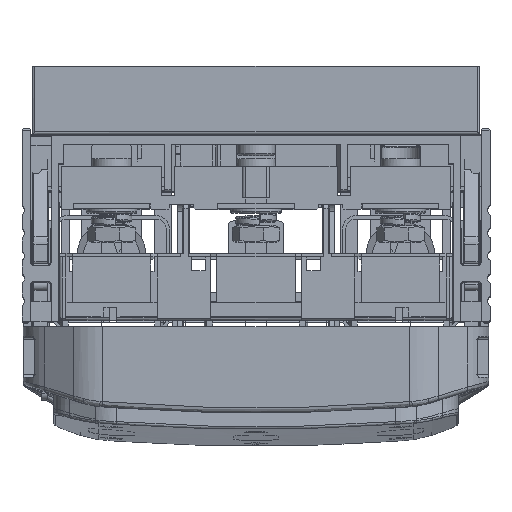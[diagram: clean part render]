
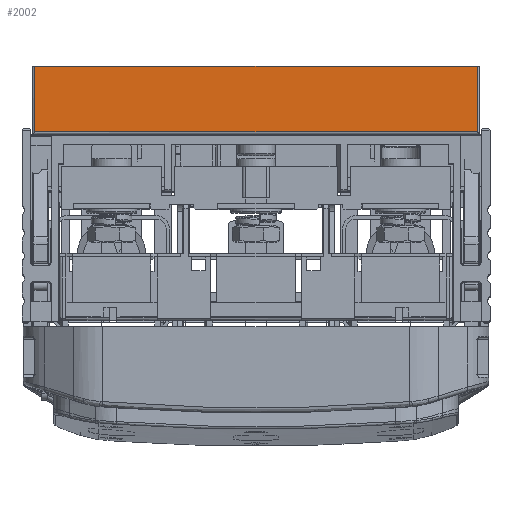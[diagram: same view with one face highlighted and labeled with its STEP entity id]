
A CAD part, top view. The second image highlights one B-rep face of the part: STEP entity #2002.
In plain terms, the highlighted planar face has unit normal (0, 0, 1).
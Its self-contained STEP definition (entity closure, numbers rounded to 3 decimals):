
#2002=ADVANCED_FACE('',(#3762),#47780,.T.);
#3762=FACE_OUTER_BOUND('',#5561,.T.);
#5561=EDGE_LOOP('',(#12170,#12171,#12172,#12173));
#12170=ORIENTED_EDGE('',*,*,#23570,.F.);
#12171=ORIENTED_EDGE('',*,*,#23567,.F.);
#12172=ORIENTED_EDGE('',*,*,#23563,.F.);
#12173=ORIENTED_EDGE('',*,*,#23569,.F.);
#23563=EDGE_CURVE('',#42810,#42811,#35461,.T.);
#23567=EDGE_CURVE('',#42811,#42814,#35464,.T.);
#23569=EDGE_CURVE('',#42815,#42810,#35465,.T.);
#23570=EDGE_CURVE('',#42814,#42815,#35466,.T.);
#35461=B_SPLINE_CURVE_WITH_KNOTS('',1,(#73908,#73909),.UNSPECIFIED.,.F.,
 .F.,(2,2),(0.,174.7),.UNSPECIFIED.);
#35464=B_SPLINE_CURVE_WITH_KNOTS('',1,(#73917,#73918),.UNSPECIFIED.,.F.,
 .F.,(2,2),(0.,26.),.UNSPECIFIED.);
#35465=B_SPLINE_CURVE_WITH_KNOTS('',1,(#73923,#73924),.UNSPECIFIED.,.F.,
 .F.,(2,2),(0.,26.),.UNSPECIFIED.);
#35466=B_SPLINE_CURVE_WITH_KNOTS('',1,(#73925,#73926),.UNSPECIFIED.,.F.,
 .F.,(2,2),(0.,174.7),.UNSPECIFIED.);
#42810=VERTEX_POINT('',#71845);
#42811=VERTEX_POINT('',#71846);
#42814=VERTEX_POINT('',#71849);
#42815=VERTEX_POINT('',#71850);
#47780=PLANE('',#49670);
#49670=AXIS2_PLACEMENT_3D('',#71200,#53447,$);
#53447=DIRECTION('',(0.,0.,1.));
#71200=CARTESIAN_POINT('',(91.051,73.3,130.191));
#71845=CARTESIAN_POINT('',(-83.649,99.3,130.191));
#71846=CARTESIAN_POINT('',(91.051,99.3,130.191));
#71849=CARTESIAN_POINT('',(91.051,73.3,130.191));
#71850=CARTESIAN_POINT('',(-83.649,73.3,130.191));
#73908=CARTESIAN_POINT('',(-83.649,99.3,130.191));
#73909=CARTESIAN_POINT('',(91.051,99.3,130.191));
#73917=CARTESIAN_POINT('',(91.051,99.3,130.191));
#73918=CARTESIAN_POINT('',(91.051,73.3,130.191));
#73923=CARTESIAN_POINT('',(-83.649,73.3,130.191));
#73924=CARTESIAN_POINT('',(-83.649,99.3,130.191));
#73925=CARTESIAN_POINT('',(91.051,73.3,130.191));
#73926=CARTESIAN_POINT('',(-83.649,73.3,130.191));
